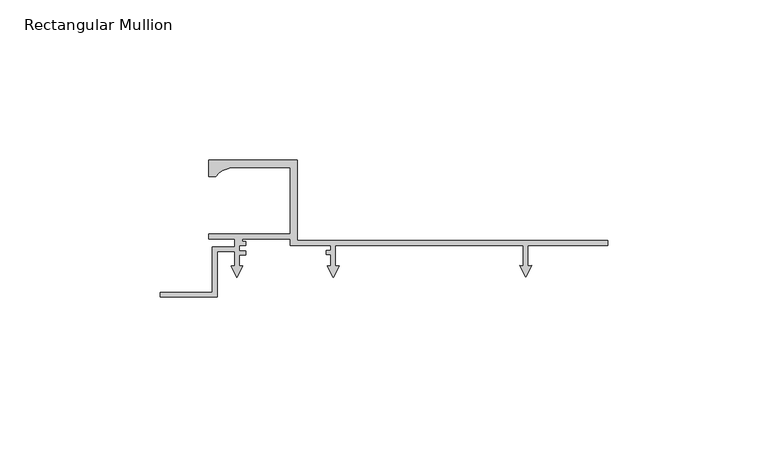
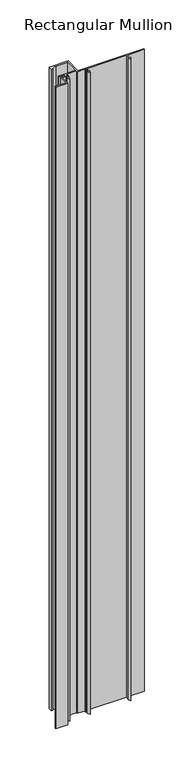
"""IFC4 building model written with IfcOpenShell, lengths in millimetres: member geometry, Rectangular Mullion : Renson_Linarte_AZ-DB-16."""

import ifcopenshell
import ifcopenshell.guid

model = None  # the IFC model being written
_history = None  # IfcOwnerHistory: only IFC2X3 demands one
_inside = {}  # id of a spatial element -> (the spatial element, [elements in it])
_under = {}  # id of a project, library or spatial element -> (it, [spatial elements below it])
_declared = {}  # id of a project -> (the project, [libraries it declares])
_typed = {}  # id of a type object -> (the type object, [elements of that type])
_made_of = {}  # id of a material, layer set ... -> (it, [elements and type objects made of it])


def new_model(schema):
    """Start an empty IFC model of exactly this schema.

    Asked for "IFC4X3", IfcOpenShell would pick the latest addendum, in which some entities
    have other attributes; the version numbers below select the first issue.
    IFC2X3 requires an IfcOwnerHistory on every rooted entity: one is made here for all.
    """
    global model, _history
    if schema == "IFC4X3":
        model = ifcopenshell.file(schema_version=(4, 3, 0, 0))
    else:
        model = ifcopenshell.file(schema=schema)
    _inside.clear()
    _under.clear()
    _declared.clear()
    _typed.clear()
    _made_of.clear()
    _history = None
    if model.schema == "IFC2X3":
        org = make("IfcOrganization", Name="unknown")
        user = make(
            "IfcPersonAndOrganization",
            ThePerson=make("IfcPerson", FamilyName="unknown"),
            TheOrganization=org,
        )
        app = make(
            "IfcApplication",
            ApplicationDeveloper=org,
            Version="unknown",
            ApplicationFullName="unknown",
            ApplicationIdentifier="unknown",
        )
        _history = make(
            "IfcOwnerHistory",
            OwningUser=user,
            OwningApplication=app,
            ChangeAction="ADDED",
            CreationDate=0,
        )
    return model


def make(cls, **values):
    """One entity of the class cls with the attributes given. An attribute that is None is left unset."""
    return model.create_entity(
        cls, **{name: value for name, value in values.items() if value is not None}
    )


def rooted(cls, **values):
    """An entity with a GlobalId (a new one), such as an element, a storey or a relation."""
    return make(cls, GlobalId=ifcopenshell.guid.new(), OwnerHistory=_history, **values)


def si_unit(unit_type, name, prefix=None):
    """IfcSIUnit, for example si_unit("LENGTHUNIT", "METRE", prefix="MILLI")."""
    return make("IfcSIUnit", UnitType=unit_type, Prefix=prefix, Name=name)


def assignment(units):
    """IfcUnitAssignment: the units of a project."""
    return None if units is None else make("IfcUnitAssignment", Units=units)


def point(xyz):
    """IfcCartesianPoint."""
    return None if xyz is None else make("IfcCartesianPoint", Coordinates=xyz)


def direction(xyz):
    """IfcDirection."""
    return None if xyz is None else make("IfcDirection", DirectionRatios=xyz)


def frame(location, z_axis=None, x_axis=None):
    """IfcAxis2Placement3D, a coordinate frame: its origin and axes. An axis left out is left unset."""
    return make(
        "IfcAxis2Placement3D",
        Location=point(location),
        Axis=direction(z_axis),
        RefDirection=direction(x_axis),
    )


def frame_2d(location, x_axis=None):
    """IfcAxis2Placement2D, a coordinate frame in the plane: its origin and x axis."""
    return make(
        "IfcAxis2Placement2D", Location=point(location), RefDirection=direction(x_axis)
    )


def origin():
    """The frame at (0, 0, 0) with its axes left unset."""
    return frame((0.0, 0.0, 0.0))


def place(relative_to, where):
    """IfcLocalPlacement: puts the frame where relative to a parent placement (None: the world)."""
    return make(
        "IfcLocalPlacement", PlacementRelTo=relative_to, RelativePlacement=where
    )


def context(
    kind, dimensions, precision=None, world=None, true_north=None, identifier=None
):
    """IfcGeometricRepresentationContext, for example the 3D "Model" context."""
    return make(
        "IfcGeometricRepresentationContext",
        ContextIdentifier=identifier,
        ContextType=kind,
        CoordinateSpaceDimension=dimensions,
        Precision=precision,
        WorldCoordinateSystem=world,
        TrueNorth=true_north,
    )


def project(units=None, contexts=None):
    """IfcProject with its units and contexts."""
    return rooted(
        "IfcProject",
        Name="project",
        RepresentationContexts=contexts,
        UnitsInContext=assignment(units),
    )


def spatial(cls, under=None, at=None, **own):
    """A site, building, storey or space (cls), placed at a placement, below another one or the project."""
    s = rooted(cls, ObjectPlacement=at, **own)
    if under is not None:
        _under.setdefault(under.id(), (under, []))[1].append(s)
    return s


def polyline(points):
    """IfcPolyline through the points."""
    return make("IfcPolyline", Points=[point(p) for p in points])


def circle_curve(where, radius):
    """IfcCircle in the frame where."""
    return make("IfcCircle", Position=where, Radius=radius)


def trimmed(basis, trim1, trim2, sense, master):
    """IfcTrimmedCurve: the piece of a basis curve between two trims."""
    return make(
        "IfcTrimmedCurve",
        BasisCurve=basis,
        Trim1=trim1,
        Trim2=trim2,
        SenseAgreement=sense,
        MasterRepresentation=master,
    )


def segment(curve, same_sense, transition):
    """IfcCompositeCurveSegment."""
    return make(
        "IfcCompositeCurveSegment",
        Transition=transition,
        SameSense=same_sense,
        ParentCurve=curve,
    )


def composite_curve(segments, self_intersect=None):
    """IfcCompositeCurve: segments joined end to end."""
    return make("IfcCompositeCurve", Segments=segments, SelfIntersect=self_intersect)


def outline(outer, holes=None, kind="AREA"):
    """IfcArbitraryClosedProfileDef: a profile drawn as a closed curve; with holes, ...WithVoids."""
    if holes is None:
        return make("IfcArbitraryClosedProfileDef", ProfileType=kind, OuterCurve=outer)
    return make(
        "IfcArbitraryProfileDefWithVoids",
        ProfileType=kind,
        OuterCurve=outer,
        InnerCurves=holes,
    )


def extrude(swept, where, along, depth):
    """IfcExtrudedAreaSolid: the profile swept, set in the frame where, extruded along a direction by depth."""
    return make(
        "IfcExtrudedAreaSolid",
        SweptArea=swept,
        Position=where,
        ExtrudedDirection=direction(along),
        Depth=depth,
    )


def shape(context_of_items, identifier, shape_type, items):
    """IfcShapeRepresentation: the items that make up one representation, for example the "Body"."""
    return make(
        "IfcShapeRepresentation",
        ContextOfItems=context_of_items,
        RepresentationIdentifier=identifier,
        RepresentationType=shape_type,
        Items=items,
    )


def source(mapping_origin, context_of_items, identifier, shape_type, items):
    """IfcRepresentationMap: a shape defined once, which mapped items show again and again."""
    return make(
        "IfcRepresentationMap",
        MappingOrigin=mapping_origin,
        MappedRepresentation=shape(context_of_items, identifier, shape_type, items),
    )


def transform(
    local_origin,
    x_axis=None,
    y_axis=None,
    z_axis=None,
    scale=None,
    scale2=None,
    scale3=None,
    uniform=True,
):
    """IfcCartesianTransformationOperator3D, or its non-uniform kind. x_axis, y_axis, z_axis: its Axis1, 2, 3."""
    if uniform:
        return make(
            "IfcCartesianTransformationOperator3D",
            Axis1=direction(x_axis),
            Axis2=direction(y_axis),
            LocalOrigin=point(local_origin),
            Scale=scale,
            Axis3=direction(z_axis),
        )
    return make(
        "IfcCartesianTransformationOperator3DnonUniform",
        Axis1=direction(x_axis),
        Axis2=direction(y_axis),
        LocalOrigin=point(local_origin),
        Scale=scale,
        Axis3=direction(z_axis),
        Scale2=scale2,
        Scale3=scale3,
    )


def mapped(mapping_source, mapping_target):
    """IfcMappedItem: shows the shape of a source again, moved by a transform."""
    return make(
        "IfcMappedItem", MappingSource=mapping_source, MappingTarget=mapping_target
    )


def made_of(thing, what):
    """Note that an element or type object is made of a material, layer set ...; save() writes the relation."""
    if what is not None:
        _made_of.setdefault(what.id(), (what, []))[1].append(thing)
    return thing


def element(
    cls,
    number,
    at=None,
    inside=None,
    cuts=None,
    type_object=None,
    material=None,
    context=None,
    identifier="Body",
    shape_type=None,
    held_by="IfcProductDefinitionShape",
    body=None,
    shapes=None,
    **own,
):
    """One element of the class cls, such as IfcWall. Its Tag is "e" and its number.

    at: its placement. inside: the storey or other place that contains it. cuts: it is an
    opening in that element (IfcRelVoidsElement). A single representation is given by context,
    identifier, shape_type and body (its items); several are given by shapes. held_by: the class
    of the entity that holds the representations. save() writes the other relations.
    """
    e = rooted(cls, Tag="e%d" % number, ObjectPlacement=at, **own)
    if body is not None:
        shapes = [shape(context, identifier, shape_type, body)]
    if shapes is not None:
        e.Representation = make(held_by, Representations=shapes)
    if inside is not None:
        _inside.setdefault(inside.id(), (inside, []))[1].append(e)
    if cuts is not None:
        rooted(
            "IfcRelVoidsElement", RelatingBuildingElement=cuts, RelatedOpeningElement=e
        )
    if type_object is not None:
        _typed.setdefault(type_object.id(), (type_object, []))[1].append(e)
    return made_of(e, material)


def aggregate(whole, parts):
    """IfcRelAggregates: a whole, such as a stair, and the parts it consists of."""
    return rooted("IfcRelAggregates", RelatingObject=whole, RelatedObjects=parts)


def save(model, path):
    """Write the relations noted so far, then the file.

    IfcRelAggregates (storeys below a building ...), IfcRelContainedInSpatialStructure (elements
    in a storey), IfcRelDefinesByType, IfcRelAssociatesMaterial and IfcRelDeclares: one each for
    every whole, place, type object, material and project.
    """
    for whole, parts in _under.values():
        aggregate(whole, parts)
    for where, things in _inside.values():
        rooted(
            "IfcRelContainedInSpatialStructure",
            RelatedElements=things,
            RelatingStructure=where,
        )
    for kind, things in _typed.values():
        rooted("IfcRelDefinesByType", RelatedObjects=things, RelatingType=kind)
    for what, things in _made_of.values():
        rooted("IfcRelAssociatesMaterial", RelatedObjects=things, RelatingMaterial=what)
    for by, libraries in _declared.values():
        rooted("IfcRelDeclares", RelatingContext=by, RelatedDefinitions=libraries)
    model.write(path)


def rectangular_mullion_f5000a33(model_context):
    return source(origin(), model_context, "Body", "SweptSolid", [
        extrude(outline(composite_curve([segment(polyline([(0.0, 36.488698), (0.0, 34.988698), (-24.7999996, 34.988698), (-24.8000024, 28.5038205), (-23.6842636, 28.601435), (-25.5000001, 25.0378476), (-27.3157367, 28.601435), (-26.2, 28.5038207), (-26.2, 34.988698), (-84.7996876, 34.988698), (-84.7996876, 28.4659731), (-83.683951, 28.5635874), (-85.4996875, 25.0), (-87.3154241, 28.5635874), (-86.1996876, 28.4659731), (-86.1996876, 32.0905067), (-87.6996876, 32.0905067), (-87.6996876, 33.2905067), (-86.1996876, 33.2905067), (-86.1996876, 34.988698), (-98.8522848, 34.988698), (-98.8522848, 36.988698), (-113.8022848, 36.988698), (-113.8022848, 36.188698), (-112.8022848, 36.188698), (-112.8022848, 34.988698), (-114.7982232, 34.988698), (-114.7982232, 33.188698), (-112.8022848, 33.188698), (-112.8022848, 31.988698), (-114.7982232, 31.988698), (-114.7982232, 28.4659731), (-113.6824865, 28.5635874), (-115.4982231, 25.0), (-117.3139597, 28.5635874), (-116.1982208, 28.4659729), (-116.1982208, 32.988698), (-121.65, 32.988698), (-121.65, 18.838698), (-139.35, 18.838698), (-139.35, 20.338698), (-123.15, 20.338698), (-123.15, 34.488698), (-116.1982231, 34.488698), (-116.1982231, 36.988698), (-124.3522848, 36.988698), (-124.3522848, 38.488698), (-98.8522848, 38.488698), (-98.8522848, 59.288698), (-116.0522848, 59.288698)]), True, "CONTINUOUS"), segment(trimmed(circle_curve(frame_2d((-116.0522848, 51.288698)), 8.0), [point((-116.0522848, 59.288698))], [point((-122.1317584, 56.488698))], True, "CARTESIAN"), True, "CONTINUOUS"), segment(polyline([(-122.1317584, 56.488698), (-124.3522848, 56.488698), (-124.3522848, 61.5), (-96.6715695, 61.5), (-96.6715695, 36.488698), (0.0, 36.488698)]), True, "CONTINUOUS")], self_intersect=False)), frame((0.0, 0.0, -1000.0), z_axis=(0.0, 0.0, 1.0), x_axis=(1.0, 0.0, 0.0)), (0.0, 0.0, 1.0), 1000.0),
    ])


if __name__ == "__main__":
    model = new_model("IFC4")
    model_context = context("Model", 3, world=origin())
    ifc_project = project(units=[si_unit("LENGTHUNIT", "METRE", prefix="MILLI")], contexts=[model_context])
    site = spatial("IfcSite", under=ifc_project)
    building = spatial("IfcBuilding", under=site)
    placement = place(None, origin())
    rectangular_mullion_shape = rectangular_mullion_f5000a33(model_context)
    element("IfcMember", 1, ObjectType="Rectangular Mullion : Renson_Linarte_AZ-DB-16", at=placement, inside=building, context=model_context, shape_type="MappedRepresentation", body=[
        mapped(rectangular_mullion_shape, transform((0.0, 0.0, 0.0), x_axis=(1.0, 0.0, 0.0), y_axis=(0.0, 1.0, 0.0), z_axis=(0.0, 0.0, 1.0))),
    ])
    save(model, "model.ifc")
